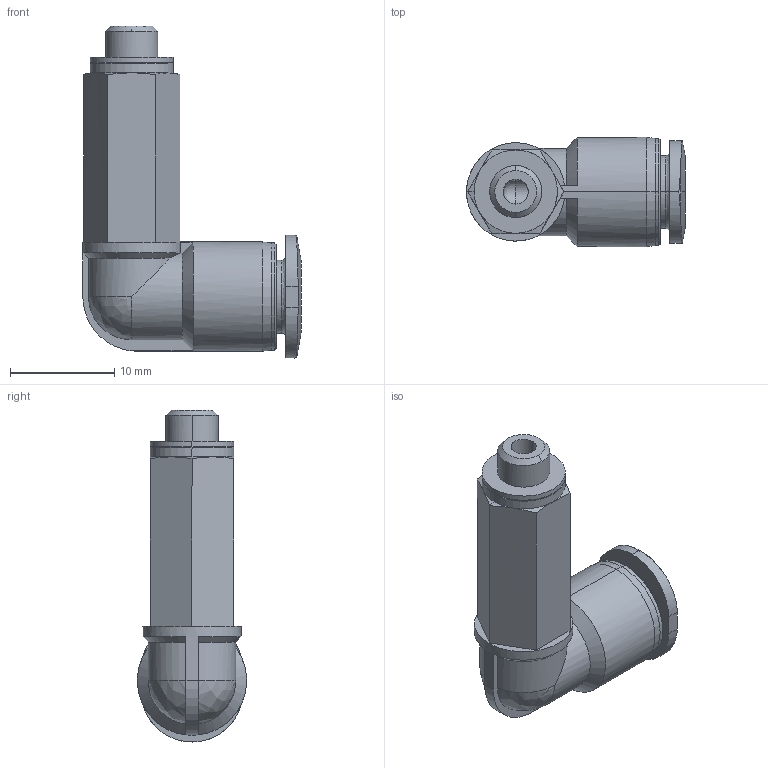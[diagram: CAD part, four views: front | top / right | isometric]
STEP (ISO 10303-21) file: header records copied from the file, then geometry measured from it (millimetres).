
FILE_DESCRIPTION (( 'STEP AP203' ), '1' );
FILE_NAME ('Asutec_14010041.STEP', '2026-09-21T08:59:43', ( '' ), ( '' ), 'SwSTEP 2.0', 'SolidWorks 2020', '' );
FILE_SCHEMA (( 'CONFIG_CONTROL_DESIGN' ));
Length unit declared in the file: millimetre
Products named in the file (1): Asutec_14010041
Bounding box: 21.02 x 10.5 x 31.9 mm (x, y, z)
Volume: 2060.4 mm3; surface area: 1886.1 mm2
Topology: 1 solids, 1 shells, 80 faces, 206 edges, 128 vertices
Faces by surface type: cylinder 27, cone 21, plane 21, bspline 11
Entity records: 3479 total; most frequent: CARTESIAN_POINT 1611, ORIENTED_EDGE 404, DIRECTION 330, EDGE_CURVE 202, AXIS2_PLACEMENT_3D 130, VERTEX_POINT 128, EDGE_LOOP 86, ADVANCED_FACE 80
